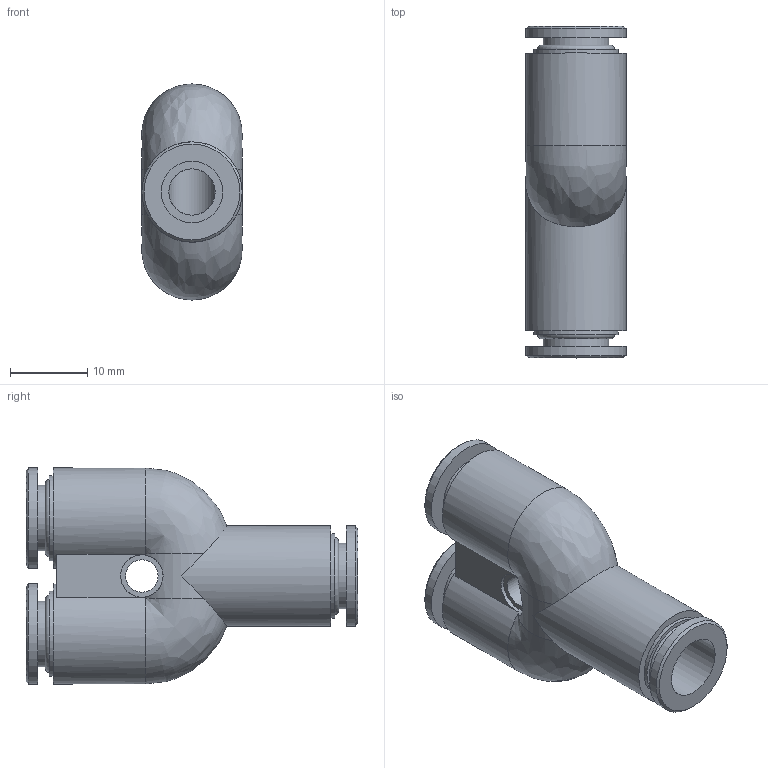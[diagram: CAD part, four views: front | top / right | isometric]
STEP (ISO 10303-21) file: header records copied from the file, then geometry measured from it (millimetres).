
FILE_DESCRIPTION(/* description */ (''),/* implementation_level */ '2;1');
FILE_NAME(/* name */ 'LXH40 0808 00.stp',/* time_stamp */ '2026-05-01T16:04:42+02:00',/* author */ ('freju'),/* organization */ (''),/* preprocessor_version */ 'ST-DEVELOPER v20.1',/* originating_system */ 'Autodesk Inventor 2026',/* authorisation */ '');
FILE_SCHEMA (('AUTOMOTIVE_DESIGN { 1 0 10303 214 3 1 1 }'));
Length unit declared in the file: millimetre
Products named in the file (1): LXH40 0808 00
Bounding box: 13 x 43 x 28 mm (x, y, z)
Volume: 5702.4 mm3; surface area: 5075 mm2
Topology: 1 solids, 1 shells, 57 faces, 132 edges, 83 vertices
Faces by surface type: cylinder 24, plane 23, bspline 4, torus 3, cone 3
Full cylindrical faces by diameter (mm): 4.2 x1, 5.5 x2, 6 x4, 8 x3, 8.5 x3, 11 x3, 13 x6
Entity records: 1821 total; most frequent: CARTESIAN_POINT 448, DIRECTION 310, ORIENTED_EDGE 248, AXIS2_PLACEMENT_3D 137, EDGE_CURVE 124, VERTEX_POINT 83, EDGE_LOOP 77, CIRCLE 71
